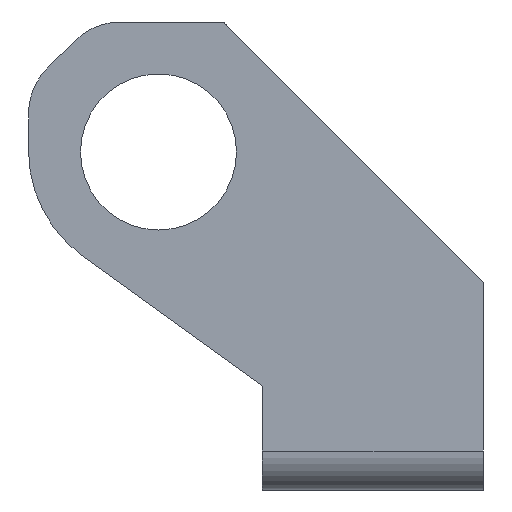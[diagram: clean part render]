
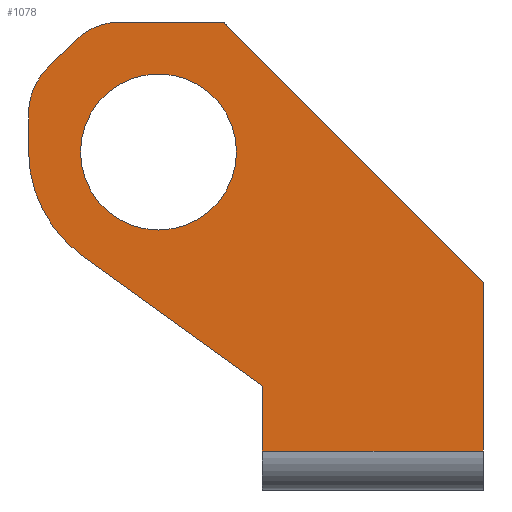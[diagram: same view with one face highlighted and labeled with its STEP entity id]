
A CAD part, left-side view. The second image highlights one B-rep face of the part: STEP entity #1078.
In plain terms, the highlighted planar face has unit normal (-1, 0, 0).
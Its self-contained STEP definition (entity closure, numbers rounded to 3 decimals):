
#4 = VECTOR ( 'NONE', #187, 1000. ) ;
#6 = VERTEX_POINT ( 'NONE', #799 ) ;
#8 = CARTESIAN_POINT ( 'NONE',  ( -15., -25., 16. ) ) ;
#16 = CARTESIAN_POINT ( 'NONE',  ( -15., 10., 26.113 ) ) ;
#20 = CARTESIAN_POINT ( 'NONE',  ( -15., 5., 28.929 ) ) ;
#25 = VECTOR ( 'NONE', #1140, 1000. ) ;
#30 = CARTESIAN_POINT ( 'NONE',  ( -15., 10., 0. ) ) ;
#44 = ORIENTED_EDGE ( 'NONE', *, *, #757, .T. ) ;
#45 = DIRECTION ( 'NONE',  ( -1., 0., 0. ) ) ;
#58 = ORIENTED_EDGE ( 'NONE', *, *, #1045, .T. ) ;
#59 = CARTESIAN_POINT ( 'NONE',  ( -15., 10., 3. ) ) ;
#78 = CARTESIAN_POINT ( 'NONE',  ( -15., 0., 26.113 ) ) ;
#84 = VERTEX_POINT ( 'NONE', #1157 ) ;
#87 = LINE ( 'NONE', #452, #102 ) ;
#94 = DIRECTION ( 'NONE',  ( 0., 0., 1. ) ) ;
#102 = VECTOR ( 'NONE', #829, 1000. ) ;
#107 = CARTESIAN_POINT ( 'NONE',  ( -15., -25., 1.5 ) ) ;
#111 = ORIENTED_EDGE ( 'NONE', *, *, #1048, .T. ) ;
#142 = VECTOR ( 'NONE', #353, 1000. ) ;
#152 = VERTEX_POINT ( 'NONE', #1198 ) ;
#166 = CARTESIAN_POINT ( 'NONE',  ( -15., -25., 3. ) ) ;
#187 = DIRECTION ( 'NONE',  ( 0., -1., 0. ) ) ;
#198 = CARTESIAN_POINT ( 'NONE',  ( -15., 10., 36. ) ) ;
#202 = DIRECTION ( 'NONE',  ( 1., 0., 0. ) ) ;
#236 = DIRECTION ( 'NONE',  ( 0., 0., -1. ) ) ;
#241 = LINE ( 'NONE', #620, #298 ) ;
#247 = DIRECTION ( 'NONE',  ( 0., 0., -1. ) ) ;
#266 = DIRECTION ( 'NONE',  ( -1., 0., 0. ) ) ;
#267 = EDGE_CURVE ( 'NONE', #352, #981, #557, .T. ) ;
#277 = CIRCLE ( 'NONE', #709, 5. ) ;
#278 = ORIENTED_EDGE ( 'NONE', *, *, #1131, .T. ) ;
#279 = CARTESIAN_POINT ( 'NONE',  ( -15., 0., 20. ) ) ;
#289 = EDGE_CURVE ( 'NONE', #6, #590, #1122, .T. ) ;
#298 = VECTOR ( 'NONE', #632, 1000. ) ;
#322 = VERTEX_POINT ( 'NONE', #8 ) ;
#334 = VERTEX_POINT ( 'NONE', #844 ) ;
#335 = LINE ( 'NONE', #59, #142 ) ;
#352 = VERTEX_POINT ( 'NONE', #16 ) ;
#353 = DIRECTION ( 'NONE',  ( 0., -1., 0. ) ) ;
#370 = CIRCLE ( 'NONE', #964, 10. ) ;
#372 = CARTESIAN_POINT ( 'NONE',  ( -15., 5.855, 18.006 ) ) ;
#395 = CIRCLE ( 'NONE', #807, 5. ) ;
#398 = VERTEX_POINT ( 'NONE', #1040 ) ;
#414 = ORIENTED_EDGE ( 'NONE', *, *, #603, .T. ) ;
#452 = CARTESIAN_POINT ( 'NONE',  ( -15., 0.032, 13.801 ) ) ;
#529 = ORIENTED_EDGE ( 'NONE', *, *, #1010, .T. ) ;
#530 = CARTESIAN_POINT ( 'NONE',  ( -15., 10., 0. ) ) ;
#541 = CARTESIAN_POINT ( 'NONE',  ( -15., -5., 36. ) ) ;
#557 = LINE ( 'NONE', #30, #1126 ) ;
#574 = EDGE_CURVE ( 'NONE', #322, #590, #1197, .T. ) ;
#586 = AXIS2_PLACEMENT_3D ( 'NONE', #530, #1086, #247 ) ;
#590 = VERTEX_POINT ( 'NONE', #541 ) ;
#603 = EDGE_CURVE ( 'NONE', #705, #84, #87, .T. ) ;
#620 = CARTESIAN_POINT ( 'NONE',  ( -15., -8., 0. ) ) ;
#627 = DIRECTION ( 'NONE',  ( 0., 0.707, 0.707 ) ) ;
#632 = DIRECTION ( 'NONE',  ( 0., 0., -1. ) ) ;
#648 = ORIENTED_EDGE ( 'NONE', *, *, #832, .T. ) ;
#684 = CARTESIAN_POINT ( 'NONE',  ( -15., 5., 36. ) ) ;
#705 = VERTEX_POINT ( 'NONE', #372 ) ;
#709 = AXIS2_PLACEMENT_3D ( 'NONE', #20, #753, #1016 ) ;
#725 = ORIENTED_EDGE ( 'NONE', *, *, #289, .F. ) ;
#748 = VECTOR ( 'NONE', #94, 1000. ) ;
#749 = ORIENTED_EDGE ( 'NONE', *, *, #267, .F. ) ;
#752 = ORIENTED_EDGE ( 'NONE', *, *, #960, .T. ) ;
#753 = DIRECTION ( 'NONE',  ( -1., 0., 0. ) ) ;
#757 = EDGE_CURVE ( 'NONE', #1006, #322, #938, .T. ) ;
#775 = LINE ( 'NONE', #684, #25 ) ;
#779 = EDGE_CURVE ( 'NONE', #1134, #1134, #906, .T. ) ;
#780 = EDGE_LOOP ( 'NONE', ( #1196 ) ) ;
#799 = CARTESIAN_POINT ( 'NONE',  ( -15., 2.929, 36. ) ) ;
#807 = AXIS2_PLACEMENT_3D ( 'NONE', #1159, #45, #236 ) ;
#809 = FACE_BOUND ( 'NONE', #780, .T. ) ;
#821 = FACE_OUTER_BOUND ( 'NONE', #1118, .T. ) ;
#826 = AXIS2_PLACEMENT_3D ( 'NONE', #862, #202, #959 ) ;
#829 = DIRECTION ( 'NONE',  ( 0., -0.811, -0.585 ) ) ;
#832 = EDGE_CURVE ( 'NONE', #334, #398, #775, .T. ) ;
#844 = CARTESIAN_POINT ( 'NONE',  ( -15., 6.464, 34.536 ) ) ;
#862 = CARTESIAN_POINT ( 'NONE',  ( -15., 0., 26. ) ) ;
#872 = DIRECTION ( 'NONE',  ( 0., 0., 1. ) ) ;
#895 = CARTESIAN_POINT ( 'NONE',  ( -15., 10., 28.929 ) ) ;
#900 = DIRECTION ( 'NONE',  ( 0., 0., -1. ) ) ;
#906 = CIRCLE ( 'NONE', #826, 6. ) ;
#927 = VECTOR ( 'NONE', #627, 1000. ) ;
#938 = LINE ( 'NONE', #107, #748 ) ;
#959 = DIRECTION ( 'NONE',  ( 0., 0., -1. ) ) ;
#960 = EDGE_CURVE ( 'NONE', #6, #334, #395, .T. ) ;
#964 = AXIS2_PLACEMENT_3D ( 'NONE', #78, #266, #900 ) ;
#981 = VERTEX_POINT ( 'NONE', #895 ) ;
#988 = ORIENTED_EDGE ( 'NONE', *, *, #574, .T. ) ;
#1006 = VERTEX_POINT ( 'NONE', #166 ) ;
#1010 = EDGE_CURVE ( 'NONE', #152, #1006, #335, .T. ) ;
#1016 = DIRECTION ( 'NONE',  ( 0., 0., -1. ) ) ;
#1040 = CARTESIAN_POINT ( 'NONE',  ( -15., 8.536, 32.464 ) ) ;
#1045 = EDGE_CURVE ( 'NONE', #352, #705, #370, .T. ) ;
#1048 = EDGE_CURVE ( 'NONE', #84, #152, #241, .T. ) ;
#1078 = ADVANCED_FACE ( 'NONE', ( #809, #821 ), #1175, .F. ) ;
#1086 = DIRECTION ( 'NONE',  ( 1., 0., 0. ) ) ;
#1095 = CARTESIAN_POINT ( 'NONE',  ( -15., -10., 31. ) ) ;
#1118 = EDGE_LOOP ( 'NONE', ( #648, #278, #749, #58, #414, #111, #529, #44, #988, #725, #752 ) ) ;
#1122 = LINE ( 'NONE', #198, #4 ) ;
#1126 = VECTOR ( 'NONE', #872, 1000. ) ;
#1131 = EDGE_CURVE ( 'NONE', #398, #981, #277, .T. ) ;
#1134 = VERTEX_POINT ( 'NONE', #279 ) ;
#1140 = DIRECTION ( 'NONE',  ( 0., 0.707, -0.707 ) ) ;
#1157 = CARTESIAN_POINT ( 'NONE',  ( -15., -8., 8. ) ) ;
#1159 = CARTESIAN_POINT ( 'NONE',  ( -15., 2.929, 31. ) ) ;
#1175 = PLANE ( 'NONE',  #586 ) ;
#1196 = ORIENTED_EDGE ( 'NONE', *, *, #779, .T. ) ;
#1197 = LINE ( 'NONE', #1095, #927 ) ;
#1198 = CARTESIAN_POINT ( 'NONE',  ( -15., -8., 3. ) ) ;
